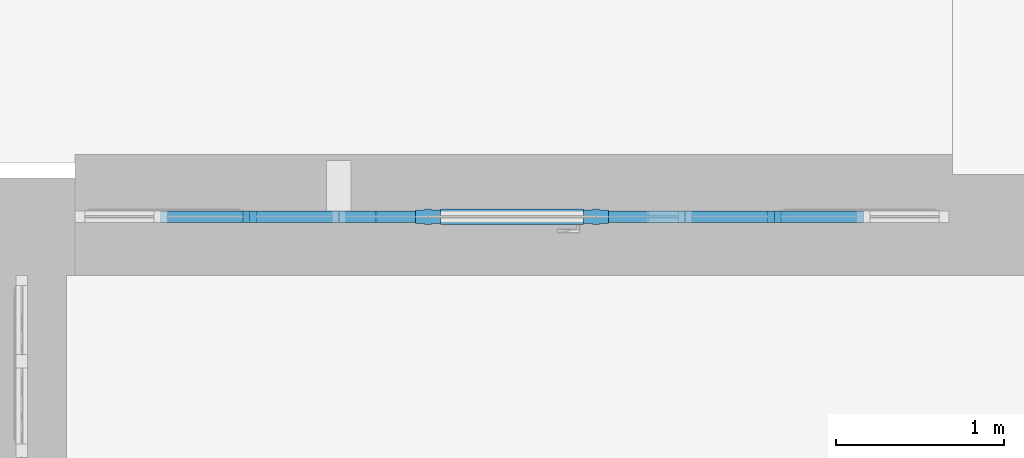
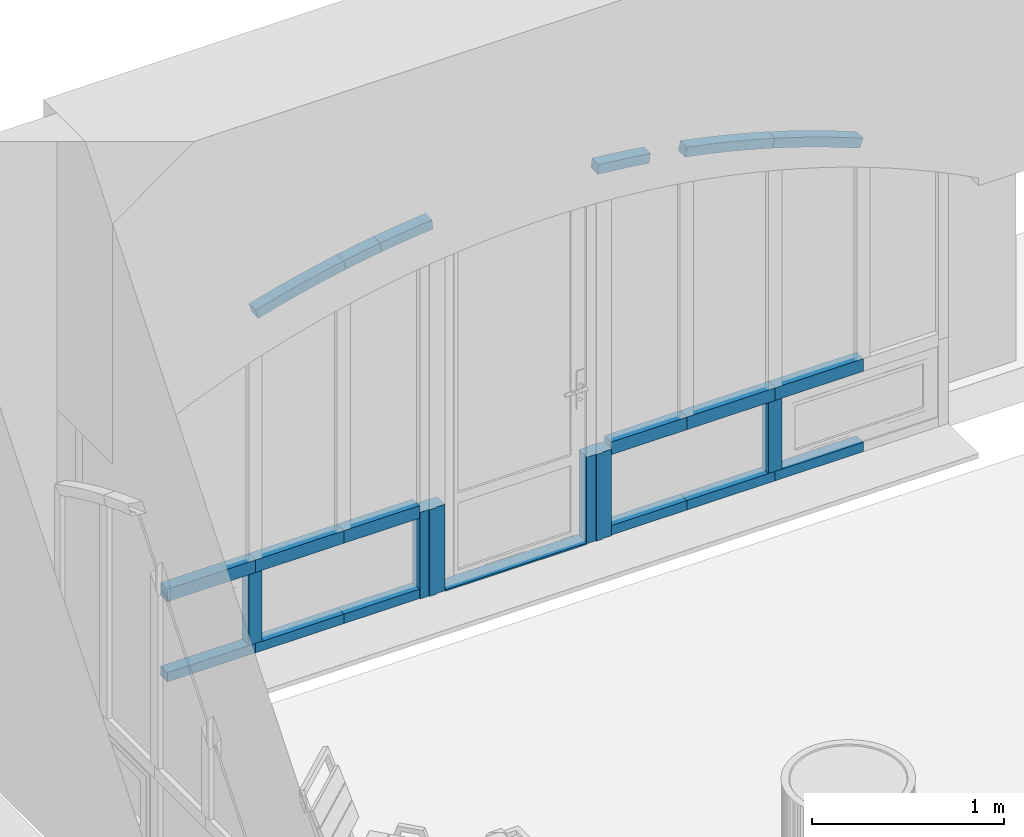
# One storey, part 48 of 88: 23 members, 1 element without a shape of its own.
"""IFC2X3 building model written with IfcOpenShell, lengths in millimetres."""

from ifc_helpers import new_model, entity, si_unit, converted_unit, derived_unit, direction, frame, frame_2d, origin, place, context, subcontext, project, spatial, polyline, circle_curve, parameter, trimmed, segment, composite_curve, rectangle, outline, extrude, source, transform, mapped, material, type_object, type_shapes, element, aggregate, save


model = new_model("IFC2X3")

# Units and contexts
model_context = context("Model", 3, precision=0.01, world=origin(), true_north=direction((6.123031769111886e-17, 1.0)))
body_context = subcontext(model_context, "Body", "Model", "MODEL_VIEW")
ifc_project = project(units=[si_unit("LENGTHUNIT", "METRE", prefix="MILLI"), si_unit("AREAUNIT", "SQUARE_METRE"), si_unit("VOLUMEUNIT", "CUBIC_METRE"), converted_unit("PLANEANGLEUNIT", "DEGREE", entity("IfcPlaneAngleMeasure", 0.017453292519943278), si_unit("PLANEANGLEUNIT", "RADIAN"), dimensions=[0, 0, 0, 0, 0, 0, 0]), si_unit("MASSUNIT", "GRAM", prefix="KILO"), derived_unit("MASSDENSITYUNIT", [(si_unit("MASSUNIT", "GRAM", prefix="KILO"), 1), (si_unit("LENGTHUNIT", "METRE"), -3)]), derived_unit("IONCONCENTRATIONUNIT", [(si_unit("MASSUNIT", "GRAM", prefix="KILO"), 1), (si_unit("LENGTHUNIT", "METRE"), -3)]), derived_unit("MOMENTOFINERTIAUNIT", [(si_unit("LENGTHUNIT", "METRE"), 4)]), si_unit("TIMEUNIT", "SECOND"), si_unit("FREQUENCYUNIT", "HERTZ"), si_unit("THERMODYNAMICTEMPERATUREUNIT", "DEGREE_CELSIUS"), derived_unit("THERMALTRANSMITTANCEUNIT", [(si_unit("MASSUNIT", "GRAM", prefix="KILO"), 1), (si_unit("THERMODYNAMICTEMPERATUREUNIT", "KELVIN"), -1), (si_unit("TIMEUNIT", "SECOND"), -3)]), derived_unit("THERMALCONDUCTANCEUNIT", [(si_unit("MASSUNIT", "GRAM", prefix="KILO"), 1), (si_unit("THERMODYNAMICTEMPERATUREUNIT", "KELVIN"), -1), (si_unit("TIMEUNIT", "SECOND"), -3), (si_unit("LENGTHUNIT", "METRE"), 1)]), derived_unit("VOLUMETRICFLOWRATEUNIT", [(si_unit("LENGTHUNIT", "METRE", prefix="DECI"), 3), (si_unit("TIMEUNIT", "SECOND"), -1)]), derived_unit("MASSFLOWRATEUNIT", [(si_unit("MASSUNIT", "GRAM", prefix="KILO"), 1), (si_unit("TIMEUNIT", "SECOND"), -1)]), derived_unit("ROTATIONALFREQUENCYUNIT", [(si_unit("TIMEUNIT", "SECOND"), -1)]), si_unit("ELECTRICCURRENTUNIT", "AMPERE"), si_unit("ELECTRICVOLTAGEUNIT", "VOLT"), si_unit("POWERUNIT", "WATT"), si_unit("FORCEUNIT", "NEWTON", prefix="KILO"), si_unit("ILLUMINANCEUNIT", "LUX"), si_unit("LUMINOUSFLUXUNIT", "LUMEN"), si_unit("LUMINOUSINTENSITYUNIT", "CANDELA"), si_unit("ENERGYUNIT", "JOULE"), derived_unit("USERDEFINED", [(si_unit("MASSUNIT", "GRAM", prefix="KILO"), -1), (si_unit("LENGTHUNIT", "METRE"), -2), (si_unit("TIMEUNIT", "SECOND"), 3), (si_unit("LUMINOUSFLUXUNIT", "LUMEN"), 1)]), derived_unit("USERDEFINED", [(si_unit("MASSUNIT", "GRAM", prefix="KILO"), 1), (si_unit("TIMEUNIT", "SECOND"), -3), (si_unit("LENGTHUNIT", "METRE"), 3), (si_unit("ELECTRICCURRENTUNIT", "AMPERE"), -2)]), derived_unit("SOUNDPOWERUNIT", [(si_unit("MASSUNIT", "GRAM", prefix="KILO"), 1), (si_unit("TIMEUNIT", "SECOND"), -3), (si_unit("LENGTHUNIT", "METRE"), 2)]), derived_unit("SOUNDPRESSUREUNIT", [(si_unit("MASSUNIT", "GRAM", prefix="KILO"), 1), (si_unit("LENGTHUNIT", "METRE"), -1), (si_unit("TIMEUNIT", "SECOND"), -2)]), derived_unit("LINEARVELOCITYUNIT", [(si_unit("LENGTHUNIT", "METRE"), 1), (si_unit("TIMEUNIT", "SECOND"), -1)]), si_unit("PRESSUREUNIT", "PASCAL"), derived_unit("USERDEFINED", [(si_unit("MASSUNIT", "GRAM", prefix="KILO"), 1), (si_unit("LENGTHUNIT", "METRE"), -2), (si_unit("TIMEUNIT", "SECOND"), -2)]), derived_unit("LINEARFORCEUNIT", [(si_unit("MASSUNIT", "GRAM", prefix="KILO"), 1), (si_unit("TIMEUNIT", "SECOND"), -2)]), derived_unit("PLANARFORCEUNIT", [(si_unit("MASSUNIT", "GRAM", prefix="KILO"), 1), (si_unit("LENGTHUNIT", "METRE"), -1), (si_unit("TIMEUNIT", "SECOND"), -2)]), derived_unit("SPECIFICHEATCAPACITYUNIT", [(si_unit("THERMODYNAMICTEMPERATUREUNIT", "KELVIN"), -1), (si_unit("LENGTHUNIT", "METRE"), 2), (si_unit("TIMEUNIT", "SECOND"), -2)]), derived_unit("HEATFLUXDENSITYUNIT", [(si_unit("MASSUNIT", "GRAM", prefix="KILO"), 1), (si_unit("TIMEUNIT", "SECOND"), -3)]), derived_unit("HEATINGVALUEUNIT", [(si_unit("LENGTHUNIT", "METRE"), 2), (si_unit("TIMEUNIT", "SECOND"), -2)]), derived_unit("VAPORPERMEABILITYUNIT", [(si_unit("LENGTHUNIT", "METRE"), -1), (si_unit("TIMEUNIT", "SECOND"), 1)]), derived_unit("DYNAMICVISCOSITYUNIT", [(si_unit("MASSUNIT", "GRAM", prefix="KILO"), 1), (si_unit("TIMEUNIT", "SECOND"), -1), (si_unit("LENGTHUNIT", "METRE"), -1)]), derived_unit("THERMALEXPANSIONCOEFFICIENTUNIT", [(si_unit("THERMODYNAMICTEMPERATUREUNIT", "KELVIN"), -1)]), derived_unit("MODULUSOFELASTICITYUNIT", [(si_unit("MASSUNIT", "GRAM", prefix="KILO"), 1), (si_unit("LENGTHUNIT", "METRE"), -1), (si_unit("TIMEUNIT", "SECOND"), -2)]), derived_unit("ISOTHERMALMOISTURECAPACITYUNIT", [(si_unit("MASSUNIT", "GRAM", prefix="KILO"), -1), (si_unit("LENGTHUNIT", "METRE"), 3)]), derived_unit("MOISTUREDIFFUSIVITYUNIT", [(si_unit("TIMEUNIT", "SECOND"), -1), (si_unit("LENGTHUNIT", "METRE"), 2)]), derived_unit("MASSPERLENGTHUNIT", [(si_unit("MASSUNIT", "GRAM", prefix="KILO"), 1), (si_unit("LENGTHUNIT", "METRE"), -1)]), derived_unit("THERMALRESISTANCEUNIT", [(si_unit("MASSUNIT", "GRAM", prefix="KILO"), -1), (si_unit("TIMEUNIT", "SECOND"), 3), (si_unit("THERMODYNAMICTEMPERATUREUNIT", "KELVIN"), 1)]), derived_unit("ACCELERATIONUNIT", [(si_unit("LENGTHUNIT", "METRE"), 1), (si_unit("TIMEUNIT", "SECOND"), -2)]), derived_unit("ANGULARVELOCITYUNIT", [(si_unit("TIMEUNIT", "SECOND"), -1), (si_unit("PLANEANGLEUNIT", "RADIAN"), 1)]), derived_unit("LINEARSTIFFNESSUNIT", [(si_unit("MASSUNIT", "GRAM", prefix="KILO"), 1), (si_unit("TIMEUNIT", "SECOND"), -2)]), derived_unit("WARPINGCONSTANTUNIT", [(si_unit("LENGTHUNIT", "METRE"), 6)]), derived_unit("LINEARMOMENTUNIT", [(si_unit("MASSUNIT", "GRAM", prefix="KILO"), 1), (si_unit("LENGTHUNIT", "METRE"), 1), (si_unit("TIMEUNIT", "SECOND"), -2)]), derived_unit("TORQUEUNIT", [(si_unit("MASSUNIT", "GRAM", prefix="KILO"), 1), (si_unit("LENGTHUNIT", "METRE"), 2), (si_unit("TIMEUNIT", "SECOND"), -2)])], contexts=[model_context])

# Site, building, storey
site_placement = place(None, origin())
site = spatial("IfcSite", under=ifc_project, at=site_placement, Name="Default", CompositionType="ELEMENT")
building_placement = place(site_placement, origin())
building = spatial("IfcBuilding", under=site, at=building_placement, Name="Eesti Rahvusraamatukogu hoone renoveerimise projekteerimistööd", CompositionType="ELEMENT")
storey_placement = place(building_placement, origin())
storey = spatial("IfcBuildingStorey", under=building, at=storey_placement, Name="1. korrus", CompositionType="ELEMENT", Elevation=0.0)

# Curtain wall, members
curtain_wall_type = type_object("IfcCurtainWallType", Name="Curtain Wall:Ak-05", PredefinedType="NOTDEFINED")
curtain_wall_placement = place(storey_placement, origin())
curtain_wall = element("IfcCurtainWall", 1, at=curtain_wall_placement, inside=storey, type_object=curtain_wall_type, Name="Curtain Wall:Ak-05", ObjectType="Curtain Wall:Ak-05")
ifc_material_1 = material(Name="LUMION_dark steel window frames")
member_type_1 = type_object("IfcMemberType", Name="Rectangular Mullion:NEW 60x70mm", PredefinedType="MULLION", material=ifc_material_1)
shared_shape_1 = source(origin(), body_context, "Body", "SweptSolid", [
    extrude(outline(composite_curve([segment(polyline([(-43.38278695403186, -270.80676601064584), (16.61721304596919, -270.80676601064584)]), True, "CONTINUOUS"), segment(trimmed(circle_curve(frame_2d((5479.897779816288, -270.80676601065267), x_axis=(-0.9951275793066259, 0.09859564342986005)), 5463.280566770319), [parameter(3.5622212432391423e-13)], [parameter(5.658307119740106)], True, "PARAMETER"), False, "CONTINUOUS"), segment(polyline([(43.23661433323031, 267.8488967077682), (-16.471040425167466, 273.7646353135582)]), True, "CONTINUOUS"), segment(trimmed(circle_curve(frame_2d((5479.897779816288, -270.80676601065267), x_axis=(-0.9951275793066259, 0.09859564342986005)), 5523.280566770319), [parameter(3.5622212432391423e-13)], [parameter(5.658307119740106)], True, "PARAMETER"), True, "CONTINUOUS")], self_intersect=False)), frame((-43.382786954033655, -35.0, -270.8067660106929), z_axis=(0.0, 1.0, 0.0), x_axis=(-0.9951275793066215, 0.0, 0.09859564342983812)), (0.0, 0.0, 1.0), 69.99999999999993),
])
type_shapes(member_type_1, [shared_shape_1])
member_1_placement = place(curtain_wall_placement, frame((-41550.0, 54340.0, 2125.118079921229), z_axis=(-0.959284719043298, 0.0, -0.28244083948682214), x_axis=(-0.28244083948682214, 0.0, 0.959284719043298)))
member_1 = element("IfcMember", 2, at=member_1_placement, type_object=member_type_1, material=ifc_material_1, Name="Rectangular Mullion:NEW 60x70mm", ObjectType="Rectangular Mullion:NEW 60x70mm", context=body_context, shape_type="MappedRepresentation", body=[
    mapped(shared_shape_1, transform((0.0, 0.0, 0.0), scale=1.0)),
])
member_type_2 = type_object("IfcMemberType", Name="Rectangular Mullion:NEW 60x70mm", PredefinedType="MULLION", material=ifc_material_1)
shared_shape_2 = source(origin(), body_context, "Body", "SweptSolid", [
    extrude(outline(composite_curve([segment(polyline([(-32.20246871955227, -109.97239538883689), (27.79753128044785, -109.97239538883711)]), True, "CONTINUOUS"), segment(trimmed(circle_curve(frame_2d((5491.078098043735, -109.97239538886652), x_axis=(-0.9991981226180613, 0.040038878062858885)), 5463.280566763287), [parameter(3.5622212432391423e-13)], [parameter(2.2946721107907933)], True, "PARAMETER"), False, "CONTINUOUS"), segment(polyline([(32.17841239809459, 108.77122904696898), (-27.7734749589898, 111.17356173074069)]), True, "CONTINUOUS"), segment(trimmed(circle_curve(frame_2d((5491.078098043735, -109.97239538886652), x_axis=(-0.9991981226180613, 0.040038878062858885)), 5523.280566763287), [parameter(3.5622212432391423e-13)], [parameter(2.2946721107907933)], True, "PARAMETER"), True, "CONTINUOUS")], self_intersect=False)), frame((-32.202468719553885, -35.0, -109.9723953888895), z_axis=(0.0, 1.0, 0.0), x_axis=(-0.9991981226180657, 0.0, 0.04003887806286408)), (0.0, 0.0, 1.0), 69.99999999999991),
])
type_shapes(member_type_2, [shared_shape_2])
member_2_placement = place(curtain_wall_placement, frame((-41020.0, 54340.0, 2253.1112564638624), z_axis=(-0.9824581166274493, 0.0, -0.18648337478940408), x_axis=(-0.18648337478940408, 0.0, 0.9824581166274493)))
member_2 = element("IfcMember", 3, at=member_2_placement, type_object=member_type_2, material=ifc_material_1, Name="Rectangular Mullion:NEW 60x70mm", ObjectType="Rectangular Mullion:NEW 60x70mm", context=body_context, shape_type="MappedRepresentation", body=[
    mapped(shared_shape_2, transform((0.0, 0.0, 0.0), scale=1.0)),
])
member_type_3 = type_object("IfcMemberType", Name="Rectangular Mullion:NEW 60x70mm", PredefinedType="MULLION", material=ifc_material_1)
shared_shape_3 = source(origin(), body_context, "Body", "SweptSolid", [
    extrude(outline(composite_curve([segment(polyline([(-44.19959331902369, -278.9278071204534), (15.8004066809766, -278.92780712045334)]), True, "CONTINUOUS"), segment(trimmed(circle_curve(frame_2d((5479.0809734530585, -278.9278071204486), x_axis=(-0.9948301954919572, 0.10155236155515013)), 5463.28056677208), [parameter(3.5622212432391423e-13)], [parameter(5.828569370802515)], True, "PARAMETER"), False, "CONTINUOUS"), segment(polyline([(44.04449918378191, 275.88123627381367), (-15.645312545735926, 281.97437796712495)]), True, "CONTINUOUS"), segment(trimmed(circle_curve(frame_2d((5479.0809734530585, -278.9278071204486), x_axis=(-0.9948301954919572, 0.10155236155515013)), 5523.28056677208), [parameter(3.5622212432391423e-13)], [parameter(5.828569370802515)], True, "PARAMETER"), True, "CONTINUOUS")], self_intersect=False)), frame((-44.199593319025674, -35.0, -278.9278071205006), z_axis=(0.0, 1.0, 0.0), x_axis=(-0.994830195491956, 0.0, 0.1015523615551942)), (0.0, 0.0, 1.0), 70.0),
])
type_shapes(member_type_3, [shared_shape_3])
member_3_placement = place(curtain_wall_placement, frame((-38430.0, 54340.0, 2125.1180799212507), z_axis=(-0.9592847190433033, 0.0, 0.28244083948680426), x_axis=(0.28244083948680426, 0.0, 0.9592847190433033)))
member_3 = element("IfcMember", 4, at=member_3_placement, type_object=member_type_3, material=ifc_material_1, Name="Rectangular Mullion:NEW 60x70mm", ObjectType="Rectangular Mullion:NEW 60x70mm", context=body_context, shape_type="MappedRepresentation", body=[
    mapped(shared_shape_3, transform((0.0, 0.0, 0.0), scale=1.0)),
])
member_type_4 = type_object("IfcMemberType", Name="Rectangular Mullion:NEW 60x70mm", PredefinedType="MULLION", material=ifc_material_1)
shared_shape_4 = source(origin(), body_context, "Body", "SweptSolid", [
    extrude(outline(composite_curve([segment(polyline([(-43.38278695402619, -270.80676601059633), (16.61721304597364, -270.8067660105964)]), True, "CONTINUOUS"), segment(trimmed(circle_curve(frame_2d((5479.897779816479, -270.8067660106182), x_axis=(-0.9951275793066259, 0.0985956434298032)), 5463.280566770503), [parameter(3.5622212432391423e-13)], [parameter(5.658307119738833)], True, "PARAMETER"), False, "CONTINUOUS"), segment(polyline([(43.23661433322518, 267.848896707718), (-16.471040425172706, 273.76463531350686)]), True, "CONTINUOUS"), segment(trimmed(circle_curve(frame_2d((5479.897779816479, -270.8067660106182), x_axis=(-0.9951275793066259, 0.0985956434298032)), 5523.280566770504), [parameter(3.5622212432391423e-13)], [parameter(5.658307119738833)], True, "PARAMETER"), True, "CONTINUOUS")], self_intersect=False)), frame((-43.38278695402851, -35.0, -270.8067660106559), z_axis=(0.0, 1.0, 0.0), x_axis=(-0.9951275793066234, 0.0, 0.09859564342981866)), (0.0, 0.0, 1.0), 69.99999999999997),
])
type_shapes(member_type_4, [shared_shape_4])
member_4_placement = place(curtain_wall_placement, frame((-38960.0, 54340.0, 2253.1112564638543), z_axis=(-0.9824581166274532, 0.0, 0.18648337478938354), x_axis=(0.18648337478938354, 0.0, 0.9824581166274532)))
member_4 = element("IfcMember", 5, at=member_4_placement, type_object=member_type_4, material=ifc_material_1, Name="Rectangular Mullion:NEW 60x70mm", ObjectType="Rectangular Mullion:NEW 60x70mm", context=body_context, shape_type="MappedRepresentation", body=[
    mapped(shared_shape_4, transform((0.0, 0.0, 0.0), scale=1.0)),
])
member_type_5 = type_object("IfcMemberType", Name="Rectangular Mullion:NEW 60x70mm", PredefinedType="MULLION", material=ifc_material_1)
shared_shape_5 = source(origin(), body_context, "Body", "SweptSolid", [
    extrude(outline(composite_curve([segment(polyline([(-34.44225079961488, -156.14991642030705), (25.5577492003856, -156.14991642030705)]), True, "CONTINUOUS"), segment(trimmed(circle_curve(frame_2d((5488.8383159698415, -156.14991642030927), x_axis=(-0.9983826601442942, 0.05685124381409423)), 5463.280566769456), [parameter(3.5622212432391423e-13)], [parameter(3.2590935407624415)], True, "PARAMETER"), False, "CONTINUOUS"), segment(polyline([(34.393730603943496, 154.44437910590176), (-25.509229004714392, 157.8554537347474)]), True, "CONTINUOUS"), segment(trimmed(circle_curve(frame_2d((5488.8383159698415, -156.14991642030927), x_axis=(-0.9983826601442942, 0.05685124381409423)), 5523.280566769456), [parameter(3.5622212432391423e-13)], [parameter(3.2590935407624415)], True, "PARAMETER"), True, "CONTINUOUS")], self_intersect=False)), frame((-34.44225079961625, -35.0, -156.14991642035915), z_axis=(0.0, 1.0, 0.0), x_axis=(-0.9983826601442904, 0.0, 0.056851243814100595)), (0.0, 0.0, 1.0), 69.99999999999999),
])
type_shapes(member_type_5, [shared_shape_5])
member_5_placement = place(curtain_wall_placement, frame((-39490.0, 54340.0, 2327.3219656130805), z_axis=(-0.995894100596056, 0.0, 0.09052591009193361), x_axis=(0.09052591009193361, 0.0, 0.995894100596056)))
member_5 = element("IfcMember", 6, at=member_5_placement, type_object=member_type_5, material=ifc_material_1, Name="Rectangular Mullion:NEW 60x70mm", ObjectType="Rectangular Mullion:NEW 60x70mm", context=body_context, shape_type="MappedRepresentation", body=[
    mapped(shared_shape_5, transform((0.0, 0.0, 0.0), scale=1.0)),
])
member_type_6 = type_object("IfcMemberType", Name="Rectangular Mullion:NEW 150x90mm", PredefinedType="MULLION", material=ifc_material_1)
shared_shape_6 = source(origin(), body_context, "Body", "SweptSolid", [
    extrude(outline(polyline([(40.0, -20.0), (45.0, -20.0), (45.0, 20.0), (40.0, 20.0), (40.0, 75.0), (-40.0, 75.0), (-40.0, 20.0), (-45.0, 20.0), (-45.0, -20.0), (-40.0, -20.0), (-40.0, -75.0), (40.0, -75.0), (40.0, -20.0)])), frame((0.0, 0.0, -550.0), z_axis=(0.0, 0.0, 1.0), x_axis=(0.0, -1.0, 0.0)), (0.0, 0.0, 1.0), 550.0000000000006),
])
type_shapes(member_type_6, [shared_shape_6])
member_6_placement = place(curtain_wall_placement, frame((-39490.0, 54340.0, -50.0), z_axis=(0.0, 0.0, -1.0), x_axis=(-1.0, 0.0, 0.0)))
member_6 = element("IfcMember", 7, at=member_6_placement, type_object=member_type_6, material=ifc_material_1, Name="Rectangular Mullion:NEW 150x90mm", ObjectType="Rectangular Mullion:NEW 150x90mm", context=body_context, shape_type="MappedRepresentation", body=[
    mapped(shared_shape_6, transform((0.0, 0.0, 0.0), scale=1.0)),
])
member_7_placement = place(curtain_wall_placement, frame((-40490.0, 54340.0, -50.0), z_axis=(0.0, 0.0, -1.0), x_axis=(-1.0, 0.0, 0.0)))
member_7 = element("IfcMember", 8, at=member_7_placement, type_object=member_type_6, material=ifc_material_1, Name="Rectangular Mullion:NEW 150x90mm", ObjectType="Rectangular Mullion:NEW 150x90mm", context=body_context, shape_type="MappedRepresentation", body=[
    mapped(shared_shape_6, transform((0.0, 0.0, 0.0), scale=1.0)),
])
member_type_7 = type_object("IfcMemberType", Name="Rectangular Mullion:NEW 80x70mm", PredefinedType="MULLION", material=ifc_material_1)
shared_shape_7 = source(origin(), body_context, "Body", "SweptSolid", [
    extrude(rectangle(XDim=80.0, YDim=70.0, at=frame_2d((0.0, -3.552713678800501e-15), x_axis=(1.0, 0.0))), frame((0.0, 0.0, -530.0), z_axis=(0.0, 0.0, 1.0), x_axis=(-1.0, 0.0, 0.0)), (0.0, 0.0, 1.0), 530.0000000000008),
])
type_shapes(member_type_7, [shared_shape_7])
member_8_placement = place(curtain_wall_placement, frame((-42080.0, 54340.0, 500.0), z_axis=(-1.0, 0.0, 0.0), x_axis=(0.0, 0.0, 1.0)))
member_8 = element("IfcMember", 9, at=member_8_placement, type_object=member_type_7, material=ifc_material_1, Name="Rectangular Mullion:NEW 80x70mm", ObjectType="Rectangular Mullion:NEW 80x70mm", context=body_context, shape_type="MappedRepresentation", body=[
    mapped(shared_shape_7, transform((0.0, 0.0, 0.0), scale=1.0)),
])
member_9_placement = place(curtain_wall_placement, frame((-41550.0, 54340.0, 500.0), z_axis=(-1.0, 0.0, 0.0), x_axis=(0.0, 0.0, 1.0)))
member_9 = element("IfcMember", 10, at=member_9_placement, type_object=member_type_7, material=ifc_material_1, Name="Rectangular Mullion:NEW 80x70mm", ObjectType="Rectangular Mullion:NEW 80x70mm", context=body_context, shape_type="MappedRepresentation", body=[
    mapped(shared_shape_7, transform((0.0, 0.0, 0.0), scale=1.0)),
])
member_10_placement = place(curtain_wall_placement, frame((-38430.0, 54340.0, 500.0), z_axis=(-1.0, 0.0, 0.0), x_axis=(0.0, 0.0, 1.0)))
member_10 = element("IfcMember", 11, at=member_10_placement, type_object=member_type_7, material=ifc_material_1, Name="Rectangular Mullion:NEW 80x70mm", ObjectType="Rectangular Mullion:NEW 80x70mm", context=body_context, shape_type="MappedRepresentation", body=[
    mapped(shared_shape_7, transform((0.0, 0.0, 0.0), scale=1.0)),
])
member_11_placement = place(curtain_wall_placement, frame((-38960.0, 54340.0, 500.0), z_axis=(-1.0, 0.0, 0.0), x_axis=(0.0, 0.0, 1.0)))
member_11 = element("IfcMember", 12, at=member_11_placement, type_object=member_type_7, material=ifc_material_1, Name="Rectangular Mullion:NEW 80x70mm", ObjectType="Rectangular Mullion:NEW 80x70mm", context=body_context, shape_type="MappedRepresentation", body=[
    mapped(shared_shape_7, transform((0.0, 0.0, 0.0), scale=1.0)),
])
member_type_8 = type_object("IfcMemberType", Name="Rectangular Mullion:NEW 80x70mm", PredefinedType="MULLION", material=ifc_material_1)
shared_shape_8 = source(origin(), body_context, "Body", "SweptSolid", [
    extrude(rectangle(XDim=80.0, YDim=70.0, at=frame_2d((0.0, -3.552713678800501e-15), x_axis=(1.0, 0.0))), frame((0.0, 0.0, -455.0), z_axis=(0.0, 0.0, 1.0), x_axis=(-1.0, 0.0, 0.0)), (0.0, 0.0, 1.0), 455.0000000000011),
])
type_shapes(member_type_8, [shared_shape_8])
member_12_placement = place(curtain_wall_placement, frame((-39415.0, 54340.0, 500.0), z_axis=(-1.0, 0.0, 0.0), x_axis=(0.0, 0.0, 1.0)))
member_12 = element("IfcMember", 13, at=member_12_placement, type_object=member_type_8, material=ifc_material_1, Name="Rectangular Mullion:NEW 80x70mm", ObjectType="Rectangular Mullion:NEW 80x70mm", context=body_context, shape_type="MappedRepresentation", body=[
    mapped(shared_shape_8, transform((0.0, 0.0, 0.0), scale=1.0)),
])
member_type_9 = type_object("IfcMemberType", Name="Rectangular Mullion:NEW 80x70mm", PredefinedType="MULLION", material=ifc_material_1)
shared_shape_9 = source(origin(), body_context, "Body", "SweptSolid", [
    extrude(rectangle(XDim=80.0, YDim=70.0, at=frame_2d((0.0, -3.552713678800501e-15), x_axis=(1.0, 0.0))), frame((0.0, 0.0, -455.0), z_axis=(0.0, 0.0, 1.0), x_axis=(-1.0, 0.0, 0.0)), (0.0, 0.0, 1.0), 455.0000000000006),
])
type_shapes(member_type_9, [shared_shape_9])
member_13_placement = place(curtain_wall_placement, frame((-41020.0, 54340.0, 500.0), z_axis=(-1.0, 0.0, 0.0), x_axis=(0.0, 0.0, 1.0)))
member_13 = element("IfcMember", 14, at=member_13_placement, type_object=member_type_9, material=ifc_material_1, Name="Rectangular Mullion:NEW 80x70mm", ObjectType="Rectangular Mullion:NEW 80x70mm", context=body_context, shape_type="MappedRepresentation", body=[
    mapped(shared_shape_9, transform((0.0, 0.0, 0.0), scale=1.0)),
])
member_type_10 = type_object("IfcMemberType", Name="Rectangular Mullion:NEW 80x70mm", PredefinedType="MULLION", material=ifc_material_1)
shared_shape_10 = source(origin(), body_context, "Body", "SweptSolid", [
    extrude(rectangle(XDim=80.0, YDim=70.0, at=frame_2d((0.0, 3.552713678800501e-15), x_axis=(1.0, 0.0))), frame((0.0, 0.0, -450.0), z_axis=(0.0, 0.0, 1.0), x_axis=(-1.0, 0.0, 0.0)), (0.0, 0.0, 1.0), 450.00000000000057),
])
type_shapes(member_type_10, [shared_shape_10])
member_14_placement = place(curtain_wall_placement, frame((-41550.0, 54340.0, 10.0), z_axis=(0.0, 0.0, -1.0), x_axis=(-1.0, 0.0, 0.0)))
member_14 = element("IfcMember", 15, at=member_14_placement, type_object=member_type_10, material=ifc_material_1, Name="Rectangular Mullion:NEW 80x70mm", ObjectType="Rectangular Mullion:NEW 80x70mm", context=body_context, shape_type="MappedRepresentation", body=[
    mapped(shared_shape_10, transform((0.0, 0.0, 0.0), scale=1.0)),
])
member_15_placement = place(curtain_wall_placement, frame((-38430.0, 54340.0, 10.0), z_axis=(0.0, 0.0, -1.0), x_axis=(-1.0, 0.0, 0.0)))
member_15 = element("IfcMember", 16, at=member_15_placement, type_object=member_type_10, material=ifc_material_1, Name="Rectangular Mullion:NEW 80x70mm", ObjectType="Rectangular Mullion:NEW 80x70mm", context=body_context, shape_type="MappedRepresentation", body=[
    mapped(shared_shape_10, transform((0.0, 0.0, 0.0), scale=1.0)),
])
member_type_11 = type_object("IfcMemberType", Name="Rectangular Mullion:NEW 60x70mm", PredefinedType="MULLION", material=ifc_material_1)
shared_shape_11 = source(origin(), body_context, "Body", "SweptSolid", [
    extrude(rectangle(XDim=60.0, YDim=70.0, at=frame_2d((0.0, 3.552713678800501e-15), x_axis=(1.0, 0.0))), frame((-30.0, 0.0, -530.0), z_axis=(0.0, 0.0, 1.0), x_axis=(-1.0, 0.0, 0.0)), (0.0, 0.0, 1.0), 530.0000000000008),
])
type_shapes(member_type_11, [shared_shape_11])
member_16_placement = place(curtain_wall_placement, frame((-41550.0, 54340.0, -50.0), z_axis=(1.0, 0.0, 0.0), x_axis=(0.0, 0.0, -1.0)))
member_16 = element("IfcMember", 17, at=member_16_placement, type_object=member_type_11, material=ifc_material_1, Name="Rectangular Mullion:NEW 60x70mm", ObjectType="Rectangular Mullion:NEW 60x70mm", context=body_context, shape_type="MappedRepresentation", body=[
    mapped(shared_shape_11, transform((0.0, 0.0, 0.0), scale=1.0)),
])
member_17_placement = place(curtain_wall_placement, frame((-38430.0, 54340.0, -50.0), z_axis=(1.0, 0.0, 0.0), x_axis=(0.0, 0.0, -1.0)))
member_17 = element("IfcMember", 18, at=member_17_placement, type_object=member_type_11, material=ifc_material_1, Name="Rectangular Mullion:NEW 60x70mm", ObjectType="Rectangular Mullion:NEW 60x70mm", context=body_context, shape_type="MappedRepresentation", body=[
    mapped(shared_shape_11, transform((0.0, 0.0, 0.0), scale=1.0)),
])
member_type_12 = type_object("IfcMemberType", Name="Rectangular Mullion:NEW 60x70mm", PredefinedType="MULLION", material=ifc_material_1)
shared_shape_12 = source(origin(), body_context, "Body", "SweptSolid", [
    extrude(rectangle(XDim=60.0, YDim=70.0, at=frame_2d((0.0, 3.552713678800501e-15), x_axis=(1.0, 0.0))), frame((-30.0, 0.0, -530.0), z_axis=(0.0, 0.0, 1.0), x_axis=(-1.0, 0.0, 0.0)), (0.0, 0.0, 1.0), 530.0000000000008),
])
type_shapes(member_type_12, [shared_shape_12])
member_18_placement = place(curtain_wall_placement, frame((-41020.0, 54340.0, -50.0), z_axis=(1.0, 0.0, 0.0), x_axis=(0.0, 0.0, -1.0)))
member_18 = element("IfcMember", 19, at=member_18_placement, type_object=member_type_12, material=ifc_material_1, Name="Rectangular Mullion:NEW 60x70mm", ObjectType="Rectangular Mullion:NEW 60x70mm", context=body_context, shape_type="MappedRepresentation", body=[
    mapped(shared_shape_12, transform((0.0, 0.0, 0.0), scale=1.0)),
])
member_19_placement = place(curtain_wall_placement, frame((-37900.0, 54340.0, -50.0), z_axis=(1.0, 0.0, 0.0), x_axis=(0.0, 0.0, -1.0)))
member_19 = element("IfcMember", 20, at=member_19_placement, type_object=member_type_12, material=ifc_material_1, Name="Rectangular Mullion:NEW 60x70mm", ObjectType="Rectangular Mullion:NEW 60x70mm", context=body_context, shape_type="MappedRepresentation", body=[
    mapped(shared_shape_12, transform((0.0, 0.0, 0.0), scale=1.0)),
])
member_type_13 = type_object("IfcMemberType", Name="Rectangular Mullion:NEW 60x70mm", PredefinedType="MULLION", material=ifc_material_1)
shared_shape_13 = source(origin(), body_context, "Body", "SweptSolid", [
    extrude(rectangle(XDim=60.0, YDim=70.0, at=frame_2d((0.0, 3.552713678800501e-15), x_axis=(1.0, 0.0))), frame((-30.0, 0.0, -455.0), z_axis=(0.0, 0.0, 1.0), x_axis=(-1.0, 0.0, 0.0)), (0.0, 0.0, 1.0), 455.0000000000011),
])
type_shapes(member_type_13, [shared_shape_13])
member_20_placement = place(curtain_wall_placement, frame((-38960.0, 54340.0, -50.0), z_axis=(1.0, 0.0, 0.0), x_axis=(0.0, 0.0, -1.0)))
member_20 = element("IfcMember", 21, at=member_20_placement, type_object=member_type_13, material=ifc_material_1, Name="Rectangular Mullion:NEW 60x70mm", ObjectType="Rectangular Mullion:NEW 60x70mm", context=body_context, shape_type="MappedRepresentation", body=[
    mapped(shared_shape_13, transform((0.0, 0.0, 0.0), scale=1.0)),
])
member_type_14 = type_object("IfcMemberType", Name="Rectangular Mullion:NEW 60x70mm", PredefinedType="MULLION", material=ifc_material_1)
shared_shape_14 = source(origin(), body_context, "Body", "SweptSolid", [
    extrude(rectangle(XDim=60.0, YDim=70.0, at=frame_2d((0.0, 3.552713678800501e-15), x_axis=(1.0, 0.0))), frame((-30.0, 0.0, -455.0), z_axis=(0.0, 0.0, 1.0), x_axis=(-1.0, 0.0, 0.0)), (0.0, 0.0, 1.0), 455.0000000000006),
])
type_shapes(member_type_14, [shared_shape_14])
member_21_placement = place(curtain_wall_placement, frame((-40565.0, 54340.0, -50.0), z_axis=(1.0, 0.0, 0.0), x_axis=(0.0, 0.0, -1.0)))
member_21 = element("IfcMember", 22, at=member_21_placement, type_object=member_type_14, material=ifc_material_1, Name="Rectangular Mullion:NEW 60x70mm", ObjectType="Rectangular Mullion:NEW 60x70mm", context=body_context, shape_type="MappedRepresentation", body=[
    mapped(shared_shape_14, transform((0.0, 0.0, 0.0), scale=1.0)),
])
ifc_material_2 = material(Name="Lumion_aluminium")
member_type_15 = type_object("IfcMemberType", Name="Rectangular Mullion:NEW 10x90mm", PredefinedType="MULLION", material=ifc_material_2)
shared_shape_15 = source(origin(), body_context, "Body", "SweptSolid", [
    extrude(rectangle(XDim=10.0, YDim=90.0, at=frame_2d((0.0, 3.552713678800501e-15), x_axis=(1.0, 0.0))), frame((-5.0, 0.0, -850.0), z_axis=(0.0, 0.0, 1.0), x_axis=(-1.0, 0.0, 0.0)), (0.0, 0.0, 1.0), 849.9999999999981),
])
type_shapes(member_type_15, [shared_shape_15])
member_22_placement = place(curtain_wall_placement, frame((-39565.0, 54340.0, -50.0), z_axis=(1.0, 0.0, 0.0), x_axis=(0.0, 0.0, -1.0)))
member_22 = element("IfcMember", 23, at=member_22_placement, type_object=member_type_15, material=ifc_material_2, Name="Rectangular Mullion:NEW 10x90mm", ObjectType="Rectangular Mullion:NEW 10x90mm", context=body_context, shape_type="MappedRepresentation", body=[
    mapped(shared_shape_15, transform((0.0, 0.0, 0.0), scale=1.0)),
])
member_type_16 = type_object("IfcMemberType", Name="Rectangular Mullion:NEW 60x70mm", PredefinedType="MULLION", material=ifc_material_1)
shared_shape_16 = source(origin(), body_context, "Body", "SweptSolid", [
    extrude(outline(composite_curve([segment(polyline([(-34.44225079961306, -156.14991642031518), (25.55774920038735, -156.14991642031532)]), True, "CONTINUOUS"), segment(trimmed(circle_curve(frame_2d((5488.838315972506, -156.14991642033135), x_axis=(-0.9983826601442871, 0.05685124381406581)), 5463.2805667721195), [parameter(3.5622212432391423e-13)], [parameter(3.2590935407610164)], True, "PARAMETER"), False, "CONTINUOUS"), segment(polyline([(34.393730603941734, 154.44437910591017), (-25.509229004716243, 157.8554537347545)]), True, "CONTINUOUS"), segment(trimmed(circle_curve(frame_2d((5488.838315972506, -156.14991642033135), x_axis=(-0.9983826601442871, 0.05685124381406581)), 5523.2805667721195), [parameter(3.5622212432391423e-13)], [parameter(3.2590935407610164)], True, "PARAMETER"), True, "CONTINUOUS")], self_intersect=False)), frame((-34.44225079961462, -35.0, -156.14991642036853), z_axis=(0.0, 1.0, 0.0), x_axis=(-0.9983826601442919, 0.0, 0.056851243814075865)), (0.0, 0.0, 1.0), 69.99999999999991),
])
type_shapes(member_type_16, [shared_shape_16])
member_23_placement = place(curtain_wall_placement, frame((-40801.90742576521, 54340.0, 2290.0), z_axis=(-0.9891368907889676, 0.0, -0.14699731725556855), x_axis=(-0.14699731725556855, 0.0, 0.9891368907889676)))
member_23 = element("IfcMember", 24, at=member_23_placement, type_object=member_type_16, material=ifc_material_1, Name="Rectangular Mullion:NEW 60x70mm", ObjectType="Rectangular Mullion:NEW 60x70mm", context=body_context, shape_type="MappedRepresentation", body=[
    mapped(shared_shape_16, transform((0.0, 0.0, 0.0), scale=1.0)),
])
aggregate(curtain_wall, [member_1, member_2, member_3, member_4, member_5, member_6, member_7, member_8, member_9, member_10, member_11, member_12, member_13, member_14, member_15, member_16, member_18, member_19, member_17, member_20, member_21, member_22, member_23])

save(model, "model.ifc")
